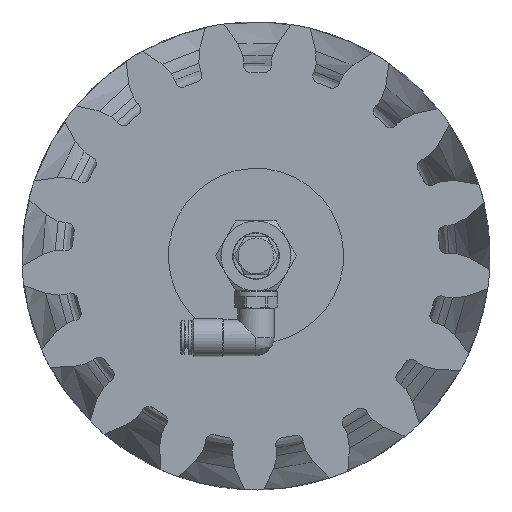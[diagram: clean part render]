
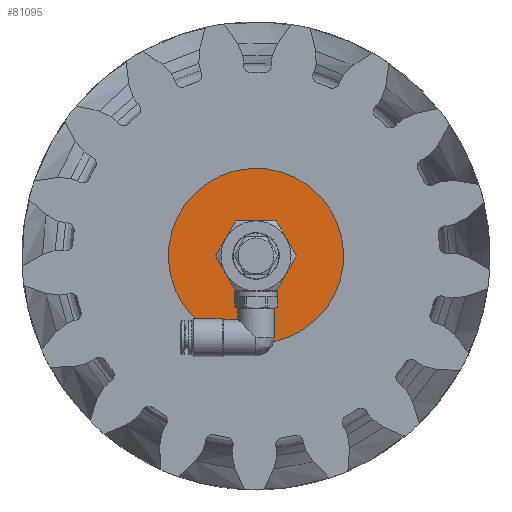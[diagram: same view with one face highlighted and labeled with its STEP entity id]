
A CAD part, front view. The second image highlights one B-rep face of the part: STEP entity #81095.
In plain terms, the highlighted planar face has unit normal (0, -1, 0) as drawn and (0, 0, 1) by its records, which use the part's own axes.
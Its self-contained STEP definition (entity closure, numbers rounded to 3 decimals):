
#2622 = FACE_BOUND ( 'NONE', #77491, .T. ) ;
#5779 = ORIENTED_EDGE ( 'NONE', *, *, #43862, .F. ) ;
#8695 = CARTESIAN_POINT ( 'NONE',  ( 0., 30., 0. ) ) ;
#13683 = EDGE_LOOP ( 'NONE', ( #74727 ) ) ;
#22115 = FACE_OUTER_BOUND ( 'NONE', #13683, .T. ) ;
#27567 = AXIS2_PLACEMENT_3D ( 'NONE', #43244, #37167, #83503 ) ;
#34283 = PLANE ( 'NONE',  #76589 ) ;
#34800 = DIRECTION ( 'NONE',  ( 1., 0., 0. ) ) ;
#37167 = DIRECTION ( 'NONE',  ( 0., 0., 1. ) ) ;
#43244 = CARTESIAN_POINT ( 'NONE',  ( 0., 0., 0. ) ) ;
#43862 = EDGE_CURVE ( 'NONE', #84136, #84136, #55264, .T. ) ;
#48547 = DIRECTION ( 'NONE',  ( -1., 0., 0. ) ) ;
#50803 = CARTESIAN_POINT ( 'NONE',  ( 5.286, 0., 0. ) ) ;
#51223 = AXIS2_PLACEMENT_3D ( 'NONE', #78678, #73766, #34800 ) ;
#54209 = EDGE_CURVE ( 'NONE', #76365, #76365, #84408, .T. ) ;
#55264 = CIRCLE ( 'NONE', #27567, 5.286 ) ;
#57717 = CARTESIAN_POINT ( 'NONE',  ( 30., 0., 0. ) ) ;
#68462 = DIRECTION ( 'NONE',  ( 0., 0., -1. ) ) ;
#73766 = DIRECTION ( 'NONE',  ( 0., 0., 1. ) ) ;
#74727 = ORIENTED_EDGE ( 'NONE', *, *, #54209, .T. ) ;
#76365 = VERTEX_POINT ( 'NONE', #57717 ) ;
#76589 = AXIS2_PLACEMENT_3D ( 'NONE', #8695, #68462, #48547 ) ;
#77491 = EDGE_LOOP ( 'NONE', ( #5779 ) ) ;
#78678 = CARTESIAN_POINT ( 'NONE',  ( 0., 0., 0. ) ) ;
#81095 = ADVANCED_FACE ( 'NONE', ( #2622, #22115 ), #34283, .F. ) ;
#83503 = DIRECTION ( 'NONE',  ( 1., 0., 0. ) ) ;
#84136 = VERTEX_POINT ( 'NONE', #50803 ) ;
#84408 = CIRCLE ( 'NONE', #51223, 30. ) ;
